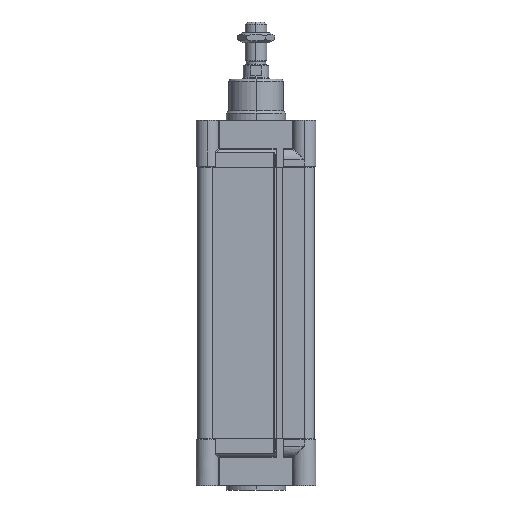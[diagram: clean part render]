
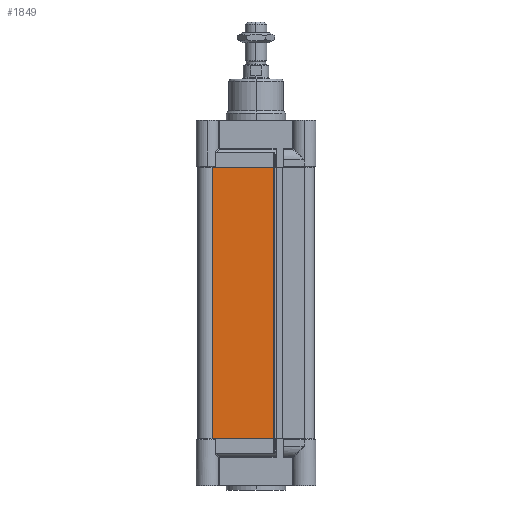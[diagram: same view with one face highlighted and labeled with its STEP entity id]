
A CAD part, left-side view. The second image highlights one B-rep face of the part: STEP entity #1849.
In plain terms, the highlighted planar face has unit normal (-1, 0, 0) as drawn and (1, 0, 0) by its records, which use the part's own axes.
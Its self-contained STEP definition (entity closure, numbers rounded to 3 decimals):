
#974 = ORIENTED_EDGE ( 'NONE', *, *, #9594, .F. ) ;
#985 = EDGE_CURVE ( 'NONE', #9259, #12304, #11172, .T. ) ;
#1091 = CARTESIAN_POINT ( 'NONE',  ( 53., -16.12, 0. ) ) ;
#1366 = VECTOR ( 'NONE', #3534, 1000. ) ;
#1386 = DIRECTION ( 'NONE',  ( 0., 0., -1. ) ) ;
#1708 = CARTESIAN_POINT ( 'NONE',  ( 53., 39.798, 251. ) ) ;
#1849 = ADVANCED_FACE ( 'NONE', ( #2398 ), #3637, .F. ) ;
#2398 = FACE_OUTER_BOUND ( 'NONE', #10143, .T. ) ;
#2541 = CARTESIAN_POINT ( 'NONE',  ( 53., 39.798, 404.018 ) ) ;
#2859 = CARTESIAN_POINT ( 'NONE',  ( 53., -16.12, 0. ) ) ;
#3534 = DIRECTION ( 'NONE',  ( 0., 0., -1. ) ) ;
#3637 = PLANE ( 'NONE',  #6703 ) ;
#3829 = CARTESIAN_POINT ( 'NONE',  ( 53., 39.798, 0. ) ) ;
#4199 = LINE ( 'NONE', #5345, #4826 ) ;
#4601 = VECTOR ( 'NONE', #12196, 1000. ) ;
#4626 = LINE ( 'NONE', #2541, #1366 ) ;
#4826 = VECTOR ( 'NONE', #1386, 1000. ) ;
#5241 = EDGE_CURVE ( 'NONE', #12202, #9259, #4199, .T. ) ;
#5345 = CARTESIAN_POINT ( 'NONE',  ( 53., -16.12, 404.018 ) ) ;
#5580 = DIRECTION ( 'NONE',  ( 0., 0., 1. ) ) ;
#5771 = ORIENTED_EDGE ( 'NONE', *, *, #5241, .T. ) ;
#6385 = ORIENTED_EDGE ( 'NONE', *, *, #985, .T. ) ;
#6703 = AXIS2_PLACEMENT_3D ( 'NONE', #11619, #11667, #5580 ) ;
#7985 = DIRECTION ( 'NONE',  ( 0., 1., 0. ) ) ;
#8545 = VERTEX_POINT ( 'NONE', #1708 ) ;
#9259 = VERTEX_POINT ( 'NONE', #1091 ) ;
#9594 = EDGE_CURVE ( 'NONE', #8545, #12304, #4626, .T. ) ;
#10143 = EDGE_LOOP ( 'NONE', ( #11915, #5771, #6385, #974 ) ) ;
#10309 = CARTESIAN_POINT ( 'NONE',  ( 53., -16.12, 251. ) ) ;
#10967 = EDGE_CURVE ( 'NONE', #12202, #8545, #11303, .T. ) ;
#11172 = LINE ( 'NONE', #2859, #11781 ) ;
#11303 = LINE ( 'NONE', #12233, #4601 ) ;
#11619 = CARTESIAN_POINT ( 'NONE',  ( 53., -16.12, 404.018 ) ) ;
#11667 = DIRECTION ( 'NONE',  ( -1., 0., 0. ) ) ;
#11781 = VECTOR ( 'NONE', #7985, 1000. ) ;
#11915 = ORIENTED_EDGE ( 'NONE', *, *, #10967, .F. ) ;
#12196 = DIRECTION ( 'NONE',  ( 0., 1., 0. ) ) ;
#12202 = VERTEX_POINT ( 'NONE', #10309 ) ;
#12233 = CARTESIAN_POINT ( 'NONE',  ( 53., -16.12, 251. ) ) ;
#12304 = VERTEX_POINT ( 'NONE', #3829 ) ;
